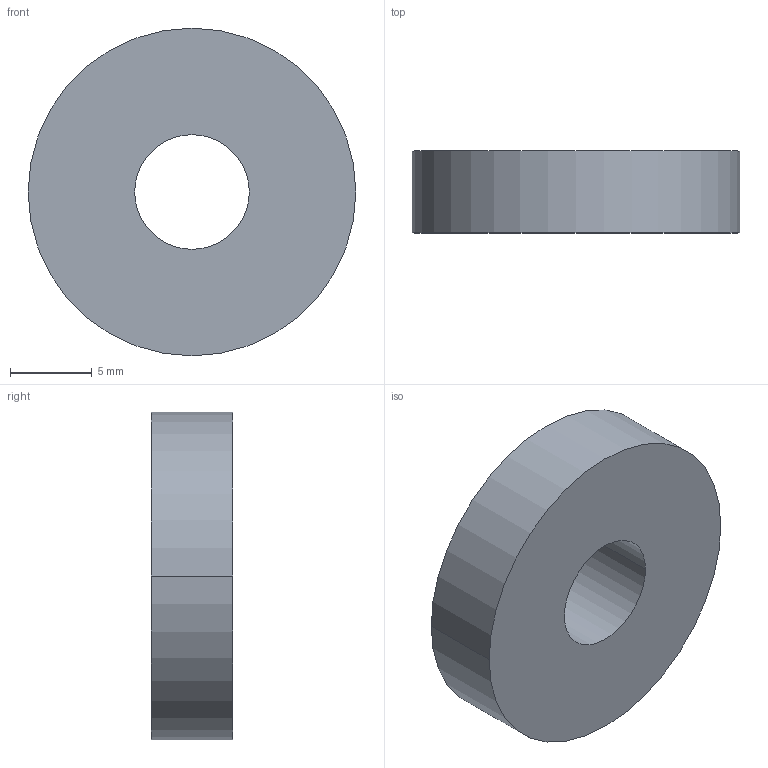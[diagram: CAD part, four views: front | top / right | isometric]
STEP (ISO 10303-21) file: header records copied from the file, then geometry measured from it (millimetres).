
FILE_DESCRIPTION((''),'2;1');
FILE_NAME('0000187269','2024-01-01T18:44:14',('Wyndorps'),(''),'CREO PARAMETRIC BY PTC INC, 2022484','CREO PARAMETRIC BY PTC INC, 2022484','');
FILE_SCHEMA(('CONFIG_CONTROL_DESIGN'));
Length unit declared in the file: millimetre
Products named in the file (1): 0000187269
Bounding box: 20 x 5 x 20 mm (x, y, z)
Volume: 1378.4 mm3; surface area: 975.5 mm2
Topology: 1 solids, 1 shells, 6 faces, 12 edges, 8 vertices
Faces by surface type: cylinder 4, plane 2
Entity records: 206 total; most frequent: DIRECTION 32, CARTESIAN_POINT 26, ORIENTED_EDGE 24, AXIS2_PLACEMENT_3D 14, EDGE_CURVE 12, VERTEX_POINT 8, EDGE_LOOP 8, CIRCLE 8
